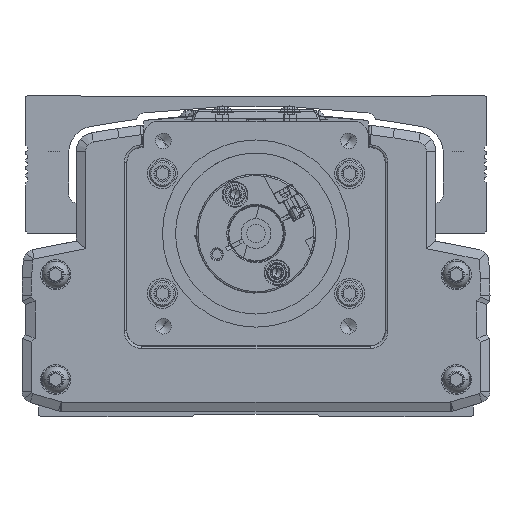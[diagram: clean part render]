
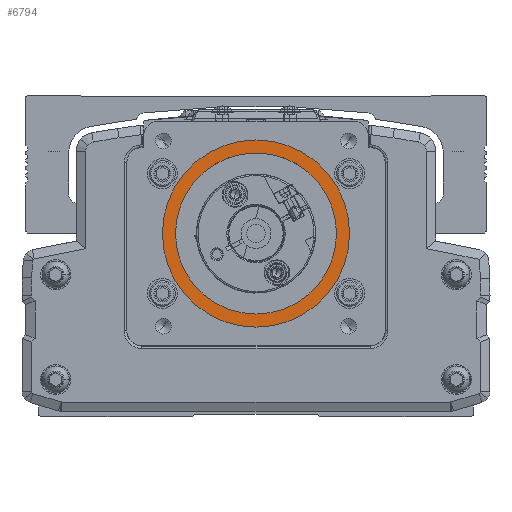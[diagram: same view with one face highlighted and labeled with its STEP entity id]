
A CAD part, front view. The second image highlights one B-rep face of the part: STEP entity #6794.
In plain terms, the highlighted planar face has unit normal (0, -1, 0).
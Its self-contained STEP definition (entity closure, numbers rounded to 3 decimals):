
#6794=ADVANCED_FACE('',(#15198,#15199),#15200,.T.);
#15198=FACE_BOUND('',#26328,.T.);
#15199=FACE_OUTER_BOUND('',#26329,.T.);
#15200=PLANE('',#26330);
#26328=EDGE_LOOP('',(#46922,#46923));
#26329=EDGE_LOOP('',(#46924,#46925));
#26330=AXIS2_PLACEMENT_3D('',#46926,#46927,#46928);
#46922=ORIENTED_EDGE('',*,*,#69829,.F.);
#46923=ORIENTED_EDGE('',*,*,#68576,.F.);
#46924=ORIENTED_EDGE('',*,*,#63234,.F.);
#46925=ORIENTED_EDGE('',*,*,#69830,.F.);
#46926=CARTESIAN_POINT('',(-300.,-535.778,0.));
#46927=DIRECTION('',(0.,-1.0,0.));
#46928=DIRECTION('',(1.0,0.,0.));
#63234=EDGE_CURVE('',#75344,#75346,#75347,.T.);
#68576=EDGE_CURVE('',#83983,#83981,#83985,.T.);
#69829=EDGE_CURVE('',#83981,#83983,#85759,.T.);
#69830=EDGE_CURVE('',#75346,#75344,#85760,.T.);
#75344=VERTEX_POINT('',#92616);
#75346=VERTEX_POINT('',#92619);
#75347=CIRCLE('',#92620,25.0);
#83981=VERTEX_POINT('',#104904);
#83983=VERTEX_POINT('',#104907);
#83985=CIRCLE('',#104910,21.5);
#85759=CIRCLE('',#107529,21.5);
#85760=CIRCLE('',#107530,25.0);
#92616=CARTESIAN_POINT('',(-275.,-535.778,0.));
#92619=CARTESIAN_POINT('',(-325.,-535.778,0.));
#92620=AXIS2_PLACEMENT_3D('',#115894,#115895,#115896);
#104904=CARTESIAN_POINT('',(-278.5,-535.778,0.));
#104907=CARTESIAN_POINT('',(-321.5,-535.778,0.));
#104910=AXIS2_PLACEMENT_3D('',#123146,#123147,#123148);
#107529=AXIS2_PLACEMENT_3D('',#124757,#124758,#124759);
#107530=AXIS2_PLACEMENT_3D('',#124760,#124761,#124762);
#115894=CARTESIAN_POINT('',(-300.,-535.778,0.));
#115895=DIRECTION('',(0.,1.0,0.));
#115896=DIRECTION('',(1.0,0.,0.));
#123146=CARTESIAN_POINT('',(-300.,-535.778,0.));
#123147=DIRECTION('',(0.,-1.0,0.));
#123148=DIRECTION('',(1.0,0.,0.));
#124757=CARTESIAN_POINT('',(-300.,-535.778,0.));
#124758=DIRECTION('',(0.,-1.0,0.));
#124759=DIRECTION('',(1.0,0.,0.));
#124760=CARTESIAN_POINT('',(-300.,-535.778,0.));
#124761=DIRECTION('',(0.,1.0,0.));
#124762=DIRECTION('',(1.0,0.,0.));
